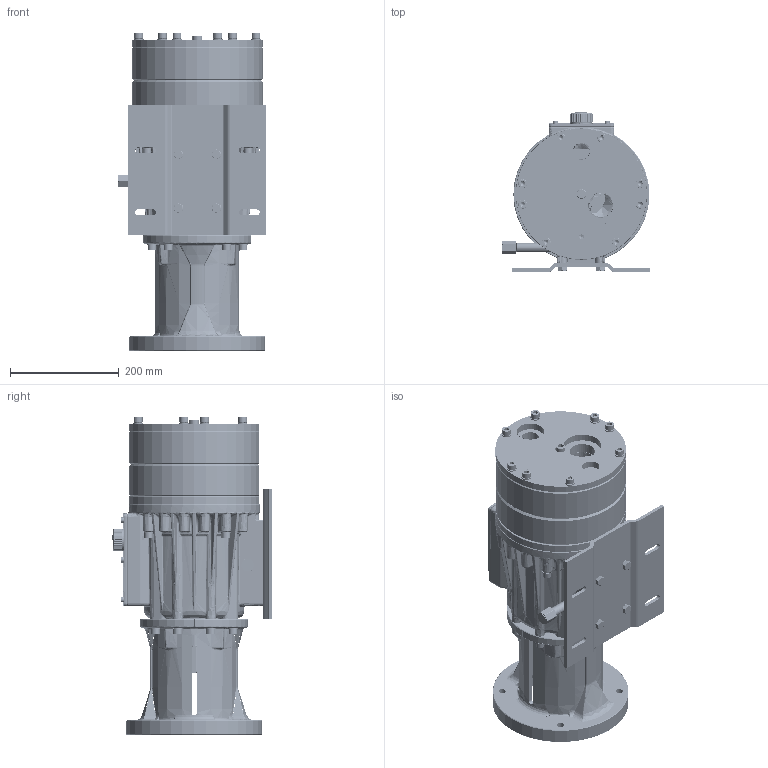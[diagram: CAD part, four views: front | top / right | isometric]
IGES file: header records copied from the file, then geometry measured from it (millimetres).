
Start section: SolidWorks IGES file using analytic representation for surfaces
Global section: file name: Q:\ENG\!!Gary\Outline-Dwgs\Latest-Pump-etc-OD\G25-P-1203-OD.IGS; native system: SolidWorks 2007; preprocessor: SolidWorks 2007; author: garyi; date: 081105.084948; units: inch
Bounding box: 273.28 x 293.87 x 583.27 mm (x, y, z)
Surface area: 1914814.8 mm2 (no closed solid volume)
Topology: 0 solids, 0 shells, 10302 faces, 117349 edges, 117281 vertices
Faces by surface type: revolution 6025, bspline 4277
